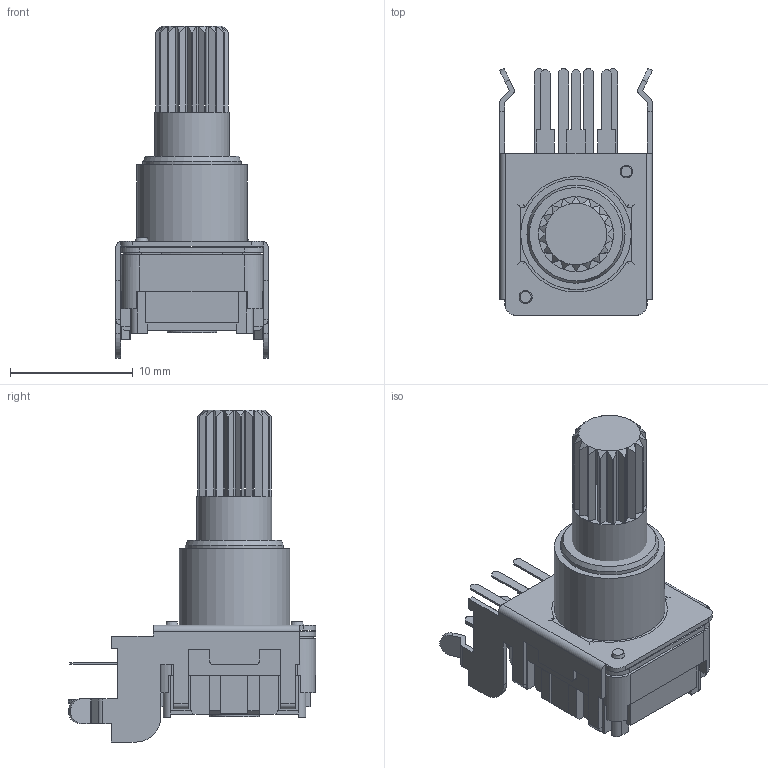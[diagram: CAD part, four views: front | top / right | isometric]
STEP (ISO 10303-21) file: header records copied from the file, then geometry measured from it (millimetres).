
FILE_DESCRIPTION(/* description */ (''),/* implementation_level */ '2;1');
FILE_NAME(/* name */ '\\Forward-ks-ad\開發專區\\X2\9AD896C45EE08A2D8A088AB2\X0\\設計機種開發作業\\X2\91CF75226A5F7A2E5C086848\X0\\ENCODER\機種開發\Encoder\DC12K\3D\CTS\DC12S12217KA01.stp',/* time_stamp */ '2020-06-17T14:07:51+08:00',/* author */ ('jia'),/* organization */ (''),/* preprocessor_version */ 'ST-DEVELOPER v15.2',/* originating_system */ 'Autodesk Inventor 2014',/* authorisation */ '');
FILE_SCHEMA (('AUTOMOTIVE_DESIGN { 1 0 10303 214 3 1 1 }'));
Length unit declared in the file: millimetre
Products named in the file (1): 組合1_Shrinkwrap_1
Bounding box: 12.4 x 20.11 x 27 mm (x, y, z)
Surface area: 2577.7 mm2 (no closed solid volume)
Topology: 0 solids, 24 shells, 343 faces, 1042 edges, 708 vertices
Faces by surface type: plane 266, cylinder 71, cone 4, torus 2
Full cylindrical faces by diameter (mm): 4 x1, 6.1 x1, 7.98 x1, 9 x1
Entity records: 11391 total; most frequent: CARTESIAN_POINT 2218, DIRECTION 1878, ORIENTED_EDGE 1765, EDGE_CURVE 1033, LINE 792, VECTOR 792, VERTEX_POINT 707, AXIS2_PLACEMENT_3D 543
